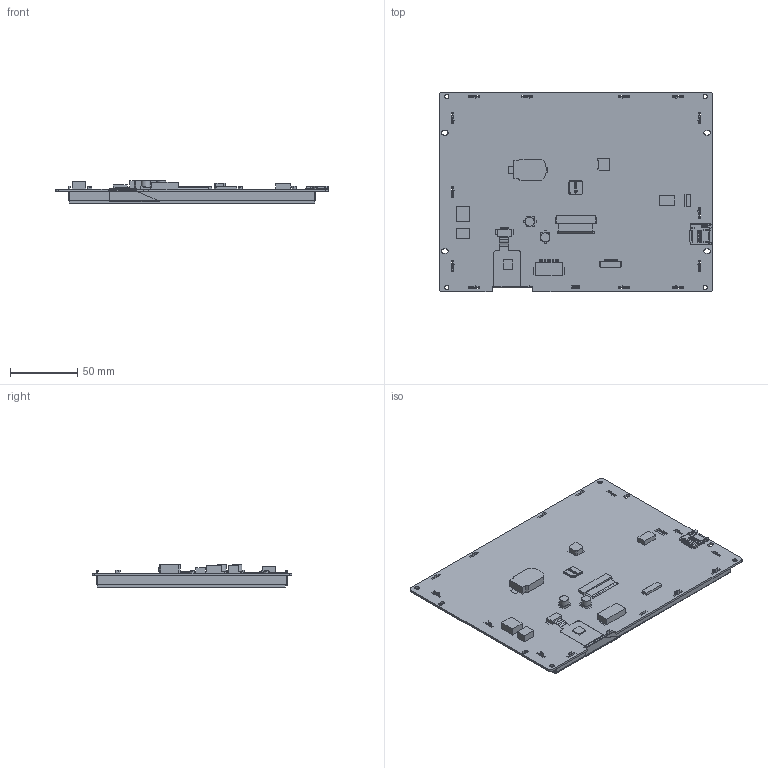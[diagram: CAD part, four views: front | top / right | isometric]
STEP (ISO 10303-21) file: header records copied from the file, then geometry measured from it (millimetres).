
FILE_DESCRIPTION(/* description */ (''),/* implementation_level */ '2;1');
FILE_NAME(/* name */ '',/* time_stamp */ '2021-08-05T10:59:55+08:00',/* author */ (''),/* organization */ (''),/* preprocessor_version */ 'ST-DEVELOPER v11',/* originating_system */ 'SIEMENS PLM Software NX 7.5',/* authorisation */ '');
FILE_SCHEMA (('AP203_CONFIGURATION_CONTROLLED_3D_DESIGN_OF_MECHANICAL_PARTS_AND_ASSEMBLIES_MIM_LF'));
Products named in the file (1): SDWb080T84C
Bounding box: 203.02 x 148.8 x 16.42 mm (x, y, z)
Volume: 99132.5 mm3; surface area: 146036.6 mm2
Topology: 23 solids, 23 shells, 2611 faces, 7635 edges, 5194 vertices
Faces by surface type: plane 2124, cylinder 479, bspline 7, cone 1
Full cylindrical faces by diameter (mm): 3.2 x4, 6.776 x2
Entity records: 88727 total; most frequent: CARTESIAN_POINT 15812, ORIENTED_EDGE 14944, DIRECTION 13705, EDGE_CURVE 7472, LINE 6607, VECTOR 6607, VERTEX_POINT 4903, AXIS2_PLACEMENT_3D 3549
